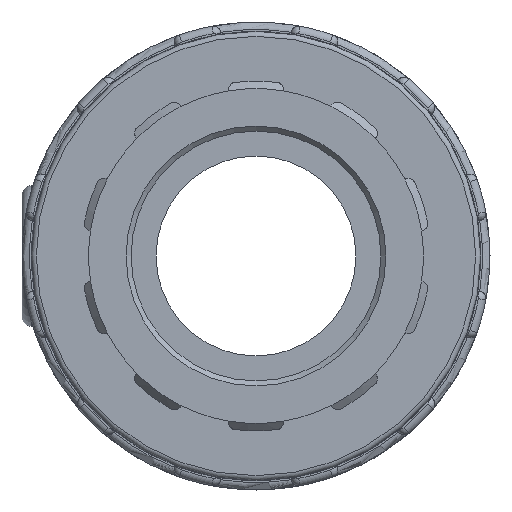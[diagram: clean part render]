
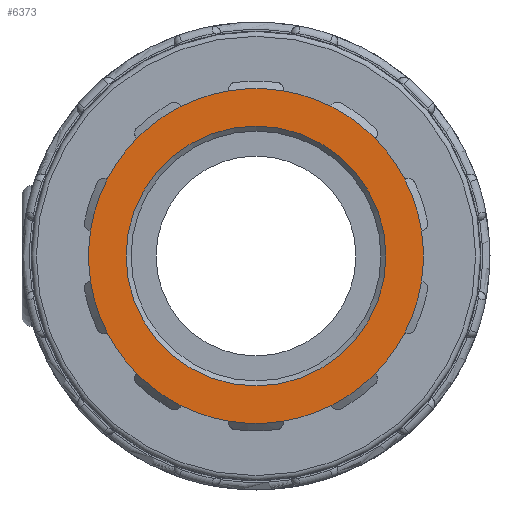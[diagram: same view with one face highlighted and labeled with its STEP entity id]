
A CAD part, left-side view. The second image highlights one B-rep face of the part: STEP entity #6373.
In plain terms, the highlighted planar face has unit normal (-1, 0, 0).
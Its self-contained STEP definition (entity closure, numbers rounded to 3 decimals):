
#64=PLANE('',#6930);
#171=FACE_BOUND('',#783,.T.);
#368=FACE_OUTER_BOUND('',#782,.T.);
#782=EDGE_LOOP('',(#4493,#4494,#4495,#4496,#4497,#4498,#4499,#4500,#4501,
#4502,#4503,#4504,#4505,#4506,#4507,#4508,#4509,#4510,#4511,#4512));
#783=EDGE_LOOP('',(#4513));
#1984=CIRCLE('',#6686,42.21);
#1987=CIRCLE('',#6692,42.21);
#1995=CIRCLE('',#6705,42.21);
#2004=CIRCLE('',#6721,42.21);
#2013=CIRCLE('',#6737,42.21);
#2022=CIRCLE('',#6753,42.21);
#2031=CIRCLE('',#6769,42.21);
#2040=CIRCLE('',#6785,42.21);
#2049=CIRCLE('',#6801,42.21);
#2067=CIRCLE('',#6832,42.21);
#2069=CIRCLE('',#6835,42.21);
#2071=CIRCLE('',#6838,42.21);
#2073=CIRCLE('',#6841,42.21);
#2075=CIRCLE('',#6844,42.21);
#2077=CIRCLE('',#6847,42.21);
#2079=CIRCLE('',#6850,42.21);
#2081=CIRCLE('',#6853,42.21);
#2083=CIRCLE('',#6856,42.21);
#2114=CIRCLE('',#6909,42.21);
#2119=CIRCLE('',#6918,42.21);
#2125=CIRCLE('',#6929,32.76);
#2479=VERTEX_POINT('',#9774);
#2481=VERTEX_POINT('',#9791);
#2483=VERTEX_POINT('',#9810);
#2487=VERTEX_POINT('',#9830);
#2502=VERTEX_POINT('',#9898);
#2504=VERTEX_POINT('',#9915);
#2518=VERTEX_POINT('',#9986);
#2520=VERTEX_POINT('',#10003);
#2534=VERTEX_POINT('',#10074);
#2536=VERTEX_POINT('',#10091);
#2550=VERTEX_POINT('',#10162);
#2552=VERTEX_POINT('',#10179);
#2566=VERTEX_POINT('',#10250);
#2568=VERTEX_POINT('',#10267);
#2582=VERTEX_POINT('',#10338);
#2584=VERTEX_POINT('',#10355);
#2598=VERTEX_POINT('',#10426);
#2600=VERTEX_POINT('',#10443);
#2614=VERTEX_POINT('',#10514);
#2632=VERTEX_POINT('',#10696);
#2640=VERTEX_POINT('',#10805);
#3093=EDGE_CURVE('',#2481,#2479,#1984,.T.);
#3100=EDGE_CURVE('',#2483,#2487,#1987,.T.);
#3120=EDGE_CURVE('',#2504,#2502,#1995,.T.);
#3141=EDGE_CURVE('',#2520,#2518,#2004,.T.);
#3162=EDGE_CURVE('',#2536,#2534,#2013,.T.);
#3183=EDGE_CURVE('',#2552,#2550,#2022,.T.);
#3204=EDGE_CURVE('',#2568,#2566,#2031,.T.);
#3225=EDGE_CURVE('',#2584,#2582,#2040,.T.);
#3246=EDGE_CURVE('',#2600,#2598,#2049,.T.);
#3284=EDGE_CURVE('',#2479,#2483,#2067,.T.);
#3286=EDGE_CURVE('',#2502,#2481,#2069,.T.);
#3288=EDGE_CURVE('',#2518,#2504,#2071,.T.);
#3290=EDGE_CURVE('',#2534,#2520,#2073,.T.);
#3292=EDGE_CURVE('',#2550,#2536,#2075,.T.);
#3294=EDGE_CURVE('',#2566,#2552,#2077,.T.);
#3296=EDGE_CURVE('',#2582,#2568,#2079,.T.);
#3298=EDGE_CURVE('',#2598,#2584,#2081,.T.);
#3300=EDGE_CURVE('',#2614,#2600,#2083,.T.);
#3336=EDGE_CURVE('',#2632,#2614,#2114,.T.);
#3344=EDGE_CURVE('',#2487,#2632,#2119,.T.);
#3351=EDGE_CURVE('',#2640,#2640,#2125,.T.);
#4493=ORIENTED_EDGE('',*,*,#3344,.F.);
#4494=ORIENTED_EDGE('',*,*,#3100,.F.);
#4495=ORIENTED_EDGE('',*,*,#3284,.F.);
#4496=ORIENTED_EDGE('',*,*,#3093,.F.);
#4497=ORIENTED_EDGE('',*,*,#3286,.F.);
#4498=ORIENTED_EDGE('',*,*,#3120,.F.);
#4499=ORIENTED_EDGE('',*,*,#3288,.F.);
#4500=ORIENTED_EDGE('',*,*,#3141,.F.);
#4501=ORIENTED_EDGE('',*,*,#3290,.F.);
#4502=ORIENTED_EDGE('',*,*,#3162,.F.);
#4503=ORIENTED_EDGE('',*,*,#3292,.F.);
#4504=ORIENTED_EDGE('',*,*,#3183,.F.);
#4505=ORIENTED_EDGE('',*,*,#3294,.F.);
#4506=ORIENTED_EDGE('',*,*,#3204,.F.);
#4507=ORIENTED_EDGE('',*,*,#3296,.F.);
#4508=ORIENTED_EDGE('',*,*,#3225,.F.);
#4509=ORIENTED_EDGE('',*,*,#3298,.F.);
#4510=ORIENTED_EDGE('',*,*,#3246,.F.);
#4511=ORIENTED_EDGE('',*,*,#3300,.F.);
#4512=ORIENTED_EDGE('',*,*,#3336,.F.);
#4513=ORIENTED_EDGE('',*,*,#3351,.F.);
#6373=ADVANCED_FACE('',(#368,#171),#64,.T.);
#6686=AXIS2_PLACEMENT_3D('',#9804,#7599,#7600);
#6692=AXIS2_PLACEMENT_3D('',#9831,#7614,#7615);
#6705=AXIS2_PLACEMENT_3D('',#9928,#7647,#7648);
#6721=AXIS2_PLACEMENT_3D('',#10016,#7687,#7688);
#6737=AXIS2_PLACEMENT_3D('',#10104,#7727,#7728);
#6753=AXIS2_PLACEMENT_3D('',#10192,#7767,#7768);
#6769=AXIS2_PLACEMENT_3D('',#10280,#7807,#7808);
#6785=AXIS2_PLACEMENT_3D('',#10368,#7847,#7848);
#6801=AXIS2_PLACEMENT_3D('',#10456,#7887,#7888);
#6832=AXIS2_PLACEMENT_3D('',#10600,#7963,#7964);
#6835=AXIS2_PLACEMENT_3D('',#10603,#7969,#7970);
#6838=AXIS2_PLACEMENT_3D('',#10606,#7975,#7976);
#6841=AXIS2_PLACEMENT_3D('',#10609,#7981,#7982);
#6844=AXIS2_PLACEMENT_3D('',#10612,#7987,#7988);
#6847=AXIS2_PLACEMENT_3D('',#10615,#7993,#7994);
#6850=AXIS2_PLACEMENT_3D('',#10618,#7999,#8000);
#6853=AXIS2_PLACEMENT_3D('',#10621,#8005,#8006);
#6856=AXIS2_PLACEMENT_3D('',#10624,#8011,#8012);
#6909=AXIS2_PLACEMENT_3D('',#10709,#8120,#8121);
#6918=AXIS2_PLACEMENT_3D('',#10724,#8141,#8142);
#6929=AXIS2_PLACEMENT_3D('',#10806,#8163,#8164);
#6930=AXIS2_PLACEMENT_3D('',#10807,#8165,#8166);
#7599=DIRECTION('center_axis',(1.,0.,0.));
#7600=DIRECTION('ref_axis',(0.,-1.,0.));
#7614=DIRECTION('center_axis',(1.,0.,0.));
#7615=DIRECTION('ref_axis',(0.,-1.,0.));
#7647=DIRECTION('center_axis',(1.,0.,0.));
#7648=DIRECTION('ref_axis',(0.,-1.,0.));
#7687=DIRECTION('center_axis',(1.,0.,0.));
#7688=DIRECTION('ref_axis',(0.,-1.,0.));
#7727=DIRECTION('center_axis',(1.,0.,0.));
#7728=DIRECTION('ref_axis',(0.,-1.,0.));
#7767=DIRECTION('center_axis',(1.,0.,0.));
#7768=DIRECTION('ref_axis',(0.,-1.,0.));
#7807=DIRECTION('center_axis',(1.,0.,0.));
#7808=DIRECTION('ref_axis',(0.,-1.,0.));
#7847=DIRECTION('center_axis',(1.,0.,0.));
#7848=DIRECTION('ref_axis',(0.,-1.,0.));
#7887=DIRECTION('center_axis',(1.,0.,0.));
#7888=DIRECTION('ref_axis',(0.,-1.,0.));
#7963=DIRECTION('center_axis',(1.,0.,0.));
#7964=DIRECTION('ref_axis',(0.,-1.,0.));
#7969=DIRECTION('center_axis',(1.,0.,0.));
#7970=DIRECTION('ref_axis',(0.,-1.,0.));
#7975=DIRECTION('center_axis',(1.,0.,0.));
#7976=DIRECTION('ref_axis',(0.,-1.,0.));
#7981=DIRECTION('center_axis',(1.,0.,0.));
#7982=DIRECTION('ref_axis',(0.,-1.,0.));
#7987=DIRECTION('center_axis',(1.,0.,0.));
#7988=DIRECTION('ref_axis',(0.,-1.,0.));
#7993=DIRECTION('center_axis',(1.,0.,0.));
#7994=DIRECTION('ref_axis',(0.,-1.,0.));
#7999=DIRECTION('center_axis',(1.,0.,0.));
#8000=DIRECTION('ref_axis',(0.,-1.,0.));
#8005=DIRECTION('center_axis',(1.,0.,0.));
#8006=DIRECTION('ref_axis',(0.,-1.,0.));
#8011=DIRECTION('center_axis',(1.,0.,0.));
#8012=DIRECTION('ref_axis',(0.,-1.,0.));
#8120=DIRECTION('center_axis',(1.,0.,0.));
#8121=DIRECTION('ref_axis',(0.,-1.,0.));
#8141=DIRECTION('center_axis',(1.,0.,0.));
#8142=DIRECTION('ref_axis',(0.,-1.,0.));
#8163=DIRECTION('center_axis',(-1.,0.,0.));
#8164=DIRECTION('ref_axis',(0.,-1.,0.));
#8165=DIRECTION('center_axis',(-1.,0.,0.));
#8166=DIRECTION('ref_axis',(0.,0.,1.));
#9774=CARTESIAN_POINT('',(-84.5,30.063,-29.629));
#9791=CARTESIAN_POINT('',(-84.5,18.889,-37.748));
#9804=CARTESIAN_POINT('Origin',(-84.5,0.,0.));
#9810=CARTESIAN_POINT('',(-84.5,37.469,-19.436));
#9830=CARTESIAN_POINT('',(-84.5,41.737,-6.3));
#9831=CARTESIAN_POINT('Origin',(-84.5,0.,0.));
#9898=CARTESIAN_POINT('',(-84.5,6.906,-41.641));
#9915=CARTESIAN_POINT('',(-84.5,-6.906,-41.641));
#9928=CARTESIAN_POINT('Origin',(-84.5,0.,0.));
#9986=CARTESIAN_POINT('',(-84.5,-18.889,-37.748));
#10003=CARTESIAN_POINT('',(-84.5,-30.063,-29.629));
#10016=CARTESIAN_POINT('Origin',(-84.5,0.,0.));
#10074=CARTESIAN_POINT('',(-84.5,-37.469,-19.436));
#10091=CARTESIAN_POINT('',(-84.5,-41.737,-6.3));
#10104=CARTESIAN_POINT('Origin',(-84.5,0.,0.));
#10162=CARTESIAN_POINT('',(-84.5,-41.737,6.3));
#10179=CARTESIAN_POINT('',(-84.5,-37.469,19.436));
#10192=CARTESIAN_POINT('Origin',(-84.5,0.,0.));
#10250=CARTESIAN_POINT('',(-84.5,-30.063,29.629));
#10267=CARTESIAN_POINT('',(-84.5,-18.889,37.748));
#10280=CARTESIAN_POINT('Origin',(-84.5,0.,0.));
#10338=CARTESIAN_POINT('',(-84.5,-6.906,41.641));
#10355=CARTESIAN_POINT('',(-84.5,6.906,41.641));
#10368=CARTESIAN_POINT('Origin',(-84.5,0.,0.));
#10426=CARTESIAN_POINT('',(-84.5,18.889,37.748));
#10443=CARTESIAN_POINT('',(-84.5,30.063,29.629));
#10456=CARTESIAN_POINT('Origin',(-84.5,0.,0.));
#10514=CARTESIAN_POINT('',(-84.5,37.469,19.436));
#10600=CARTESIAN_POINT('Origin',(-84.5,0.,0.));
#10603=CARTESIAN_POINT('Origin',(-84.5,0.,0.));
#10606=CARTESIAN_POINT('Origin',(-84.5,0.,0.));
#10609=CARTESIAN_POINT('Origin',(-84.5,0.,0.));
#10612=CARTESIAN_POINT('Origin',(-84.5,0.,0.));
#10615=CARTESIAN_POINT('Origin',(-84.5,0.,0.));
#10618=CARTESIAN_POINT('Origin',(-84.5,0.,0.));
#10621=CARTESIAN_POINT('Origin',(-84.5,0.,0.));
#10624=CARTESIAN_POINT('Origin',(-84.5,0.,0.));
#10696=CARTESIAN_POINT('',(-84.5,41.737,6.3));
#10709=CARTESIAN_POINT('Origin',(-84.5,0.,0.));
#10724=CARTESIAN_POINT('Origin',(-84.5,0.,0.));
#10805=CARTESIAN_POINT('',(-84.5,32.76,0.));
#10806=CARTESIAN_POINT('Origin',(-84.5,0.,0.));
#10807=CARTESIAN_POINT('Origin',(-84.5,44.1,0.));
